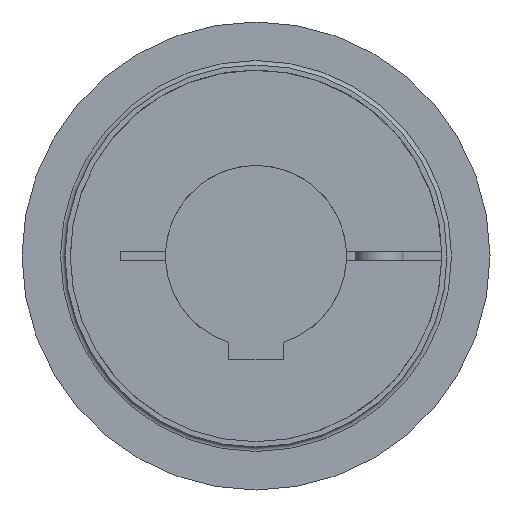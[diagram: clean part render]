
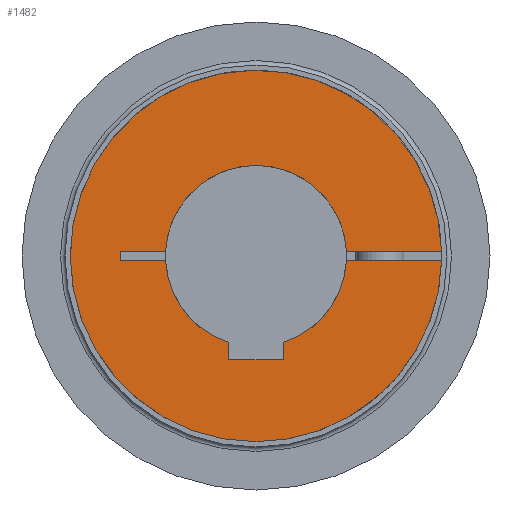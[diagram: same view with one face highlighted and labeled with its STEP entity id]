
A CAD part, left-side view. The second image highlights one B-rep face of the part: STEP entity #1482.
In plain terms, the highlighted planar face has unit normal (-1, 0, 0).
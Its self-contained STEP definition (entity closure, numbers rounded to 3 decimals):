
#24=PLANE('',#1695);
#141=LINE('',#2686,#244);
#144=LINE('',#2692,#247);
#145=LINE('',#2694,#248);
#156=LINE('',#2715,#259);
#157=LINE('',#2717,#260);
#158=LINE('',#2719,#261);
#159=LINE('',#2721,#262);
#160=LINE('',#2722,#263);
#244=VECTOR('',#2053,1.);
#247=VECTOR('',#2058,1.);
#248=VECTOR('',#2061,1.);
#259=VECTOR('',#2084,1.);
#260=VECTOR('',#2087,1.);
#261=VECTOR('',#2088,1.);
#262=VECTOR('',#2089,1.);
#263=VECTOR('',#2090,1.);
#375=FACE_OUTER_BOUND('',#470,.T.);
#470=EDGE_LOOP('',(#1224,#1225,#1226,#1227,#1228,#1229,#1230,#1231,#1232,
#1233,#1234,#1235,#1236));
#604=CIRCLE('',#1630,61.5);
#607=CIRCLE('',#1633,61.5);
#638=CIRCLE('',#1679,30.);
#641=CIRCLE('',#1683,30.);
#643=CIRCLE('',#1685,30.);
#697=VERTEX_POINT('',#2374);
#698=VERTEX_POINT('',#2376);
#703=VERTEX_POINT('',#2386);
#744=VERTEX_POINT('',#2656);
#745=VERTEX_POINT('',#2657);
#750=VERTEX_POINT('',#2668);
#751=VERTEX_POINT('',#2670);
#754=VERTEX_POINT('',#2676);
#755=VERTEX_POINT('',#2678);
#757=VERTEX_POINT('',#2684);
#759=VERTEX_POINT('',#2690);
#764=VERTEX_POINT('',#2718);
#765=VERTEX_POINT('',#2720);
#862=EDGE_CURVE('',#697,#698,#604,.T.);
#868=EDGE_CURVE('',#703,#697,#607,.T.);
#921=EDGE_CURVE('',#744,#745,#638,.T.);
#927=EDGE_CURVE('',#751,#750,#641,.T.);
#931=EDGE_CURVE('',#755,#754,#643,.T.);
#935=EDGE_CURVE('',#754,#757,#141,.T.);
#938=EDGE_CURVE('',#757,#759,#144,.T.);
#939=EDGE_CURVE('',#759,#751,#145,.T.);
#950=EDGE_CURVE('',#745,#698,#156,.T.);
#951=EDGE_CURVE('',#703,#755,#157,.T.);
#952=EDGE_CURVE('',#750,#764,#158,.T.);
#953=EDGE_CURVE('',#764,#765,#159,.T.);
#954=EDGE_CURVE('',#765,#744,#160,.T.);
#1224=ORIENTED_EDGE('',*,*,#921,.T.);
#1225=ORIENTED_EDGE('',*,*,#950,.T.);
#1226=ORIENTED_EDGE('',*,*,#862,.F.);
#1227=ORIENTED_EDGE('',*,*,#868,.F.);
#1228=ORIENTED_EDGE('',*,*,#951,.T.);
#1229=ORIENTED_EDGE('',*,*,#931,.T.);
#1230=ORIENTED_EDGE('',*,*,#935,.T.);
#1231=ORIENTED_EDGE('',*,*,#938,.T.);
#1232=ORIENTED_EDGE('',*,*,#939,.T.);
#1233=ORIENTED_EDGE('',*,*,#927,.T.);
#1234=ORIENTED_EDGE('',*,*,#952,.T.);
#1235=ORIENTED_EDGE('',*,*,#953,.T.);
#1236=ORIENTED_EDGE('',*,*,#954,.T.);
#1482=ADVANCED_FACE('',(#375),#24,.T.);
#1630=AXIS2_PLACEMENT_3D('',#2377,#1912,#1913);
#1633=AXIS2_PLACEMENT_3D('',#2388,#1921,#1922);
#1679=AXIS2_PLACEMENT_3D('',#2658,#2029,#2030);
#1683=AXIS2_PLACEMENT_3D('',#2671,#2040,#2041);
#1685=AXIS2_PLACEMENT_3D('',#2679,#2046,#2047);
#1695=AXIS2_PLACEMENT_3D('',#2716,#2085,#2086);
#1912=DIRECTION('center_axis',(1.,0.,0.));
#1913=DIRECTION('ref_axis',(0.,0.,1.));
#1921=DIRECTION('center_axis',(1.,0.,0.));
#1922=DIRECTION('ref_axis',(0.,0.,1.));
#2029=DIRECTION('center_axis',(1.,0.,0.));
#2030=DIRECTION('ref_axis',(0.,0.,-1.));
#2040=DIRECTION('center_axis',(1.,0.,0.));
#2041=DIRECTION('ref_axis',(0.,0.,-1.));
#2046=DIRECTION('center_axis',(1.,0.,0.));
#2047=DIRECTION('ref_axis',(0.,0.,-1.));
#2053=DIRECTION('',(0.,0.,-1.));
#2058=DIRECTION('',(0.,1.,0.));
#2061=DIRECTION('',(0.,0.,1.));
#2084=DIRECTION('',(0.,-1.,0.));
#2085=DIRECTION('center_axis',(-1.,0.,0.));
#2086=DIRECTION('ref_axis',(0.,0.,-1.));
#2087=DIRECTION('',(0.,1.,0.));
#2088=DIRECTION('',(0.,1.,0.));
#2089=DIRECTION('',(0.,0.,1.));
#2090=DIRECTION('',(0.,-1.,0.));
#2374=CARTESIAN_POINT('',(0.,0.,-61.5));
#2376=CARTESIAN_POINT('',(0.,-61.482,1.5));
#2377=CARTESIAN_POINT('Origin',(0.,0.,0.));
#2386=CARTESIAN_POINT('',(0.,-61.482,-1.5));
#2388=CARTESIAN_POINT('Origin',(0.,0.,0.));
#2656=CARTESIAN_POINT('',(0.,29.962,1.5));
#2657=CARTESIAN_POINT('',(0.,-29.962,1.5));
#2658=CARTESIAN_POINT('Origin',(0.,0.,0.));
#2668=CARTESIAN_POINT('',(0.,29.962,-1.5));
#2670=CARTESIAN_POINT('',(0.,9.,-28.618));
#2671=CARTESIAN_POINT('Origin',(0.,0.,0.));
#2676=CARTESIAN_POINT('',(0.,-9.,-28.618));
#2678=CARTESIAN_POINT('',(0.,-29.962,-1.5));
#2679=CARTESIAN_POINT('Origin',(0.,0.,0.));
#2684=CARTESIAN_POINT('',(0.,-9.,-34.4));
#2686=CARTESIAN_POINT('',(0.,-9.,6.775));
#2690=CARTESIAN_POINT('',(0.,9.,-34.4));
#2692=CARTESIAN_POINT('',(0.,0.,-34.4));
#2694=CARTESIAN_POINT('',(0.,9.,6.775));
#2715=CARTESIAN_POINT('',(0.,-4.375,1.5));
#2716=CARTESIAN_POINT('Origin',(0.,0.,30.75));
#2717=CARTESIAN_POINT('',(0.,-4.375,-1.5));
#2718=CARTESIAN_POINT('',(0.,45.,-1.5));
#2719=CARTESIAN_POINT('',(0.,-4.375,-1.5));
#2720=CARTESIAN_POINT('',(0.,45.,1.5));
#2721=CARTESIAN_POINT('',(0.,45.,15.375));
#2722=CARTESIAN_POINT('',(0.,-4.375,1.5));
